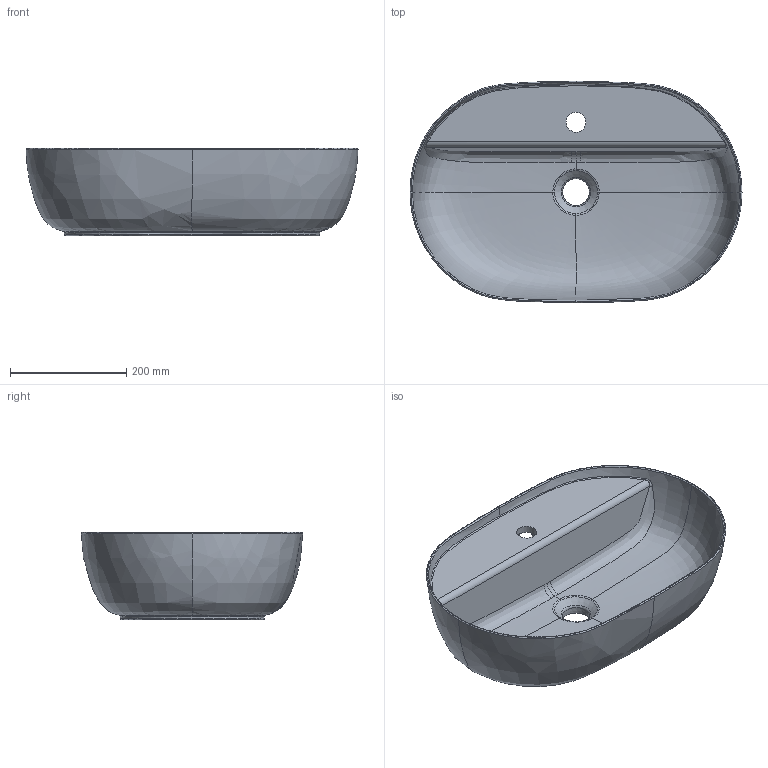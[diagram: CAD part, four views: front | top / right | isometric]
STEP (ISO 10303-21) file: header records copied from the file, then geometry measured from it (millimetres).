
FILE_DESCRIPTION(/* description */ (''),/* implementation_level */ '2;1');
FILE_NAME(/* name */ 'LAVABO_HAPPY_HOUR_12-00_MF_PROTAP_01_20210517.stp',/* time_stamp */ '2021-05-17T11:44:48+02:00',/* author */ (''),/* organization */ (''),/* preprocessor_version */ 'ST-DEVELOPER v16.7',/* originating_system */ 'SIEMENS PLM Software NX 12.0',/* authorisation */ '');
FILE_SCHEMA (('AUTOMOTIVE_DESIGN { 1 0 10303 214 3 1 1 1 }'));
Length unit declared in the file: millimetre
Products named in the file (1): Cava20841A6A3m9p
Bounding box: 570.03 x 380.03 x 150 mm (x, y, z)
Volume: 7213204.5 mm3; surface area: 674117 mm2
Topology: 1 solids, 1 shells, 271 faces, 673 edges, 404 vertices
Faces by surface type: bspline 228, cylinder 19, plane 17, cone 4, torus 3
Full cylindrical faces by diameter (mm): 8 x1, 34 x1
Entity records: 31494 total; most frequent: CARTESIAN_POINT 26923, ORIENTED_EDGE 1290, EDGE_CURVE 645, B_SPLINE_CURVE_WITH_KNOTS 469, VERTEX_POINT 397, DIRECTION 364, EDGE_LOOP 296, ADVANCED_FACE 271
